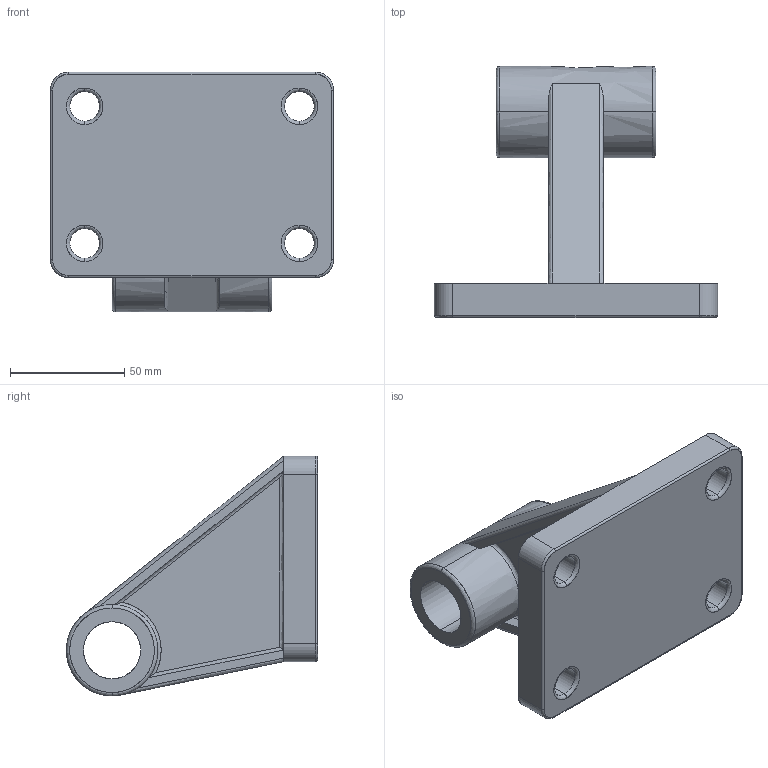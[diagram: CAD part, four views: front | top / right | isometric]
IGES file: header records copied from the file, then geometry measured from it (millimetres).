
Start section: SolidWorks IGES file using analytic representation for surfaces
Global section: file name: D:\ARICA 3D ÇÝZÝMLER\3D IGES\BAÐLANTI ELEMANLARI\DNC-MHA YER BAÐLANTI\DNC-MHA-125.IGS; native system: SolidWorks 2013; preprocessor: SolidWorks 2013; author: user; date: 150224.141558; units: millimetre
Bounding box: 124 x 110 x 105 mm (x, y, z)
Surface area: 57941.7 mm2 (no closed solid volume)
Topology: 0 solids, 0 shells, 77 faces, 1072 edges, 1072 vertices
Faces by surface type: bspline 47, revolution 30
